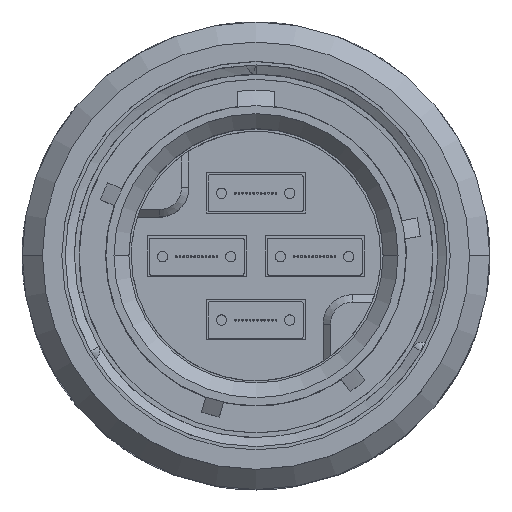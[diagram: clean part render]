
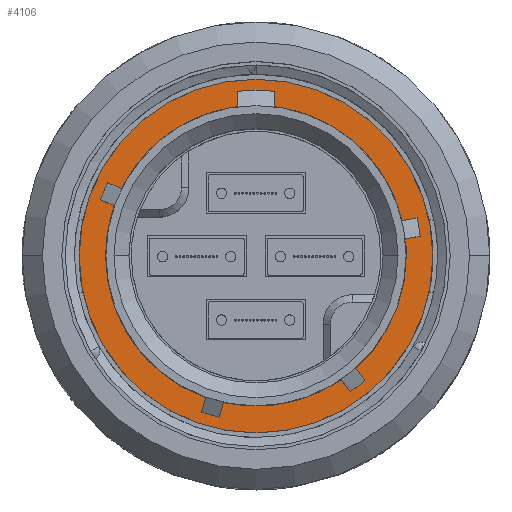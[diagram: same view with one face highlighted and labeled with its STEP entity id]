
A CAD part, top view. The second image highlights one B-rep face of the part: STEP entity #4106.
In plain terms, the highlighted planar face has unit normal (0, 0, 1).
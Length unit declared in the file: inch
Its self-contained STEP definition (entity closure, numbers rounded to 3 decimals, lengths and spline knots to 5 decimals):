
#114 = AXIS2_PLACEMENT_3D ( 'NONE', #2065, #16247, #16500 ) ;
#302 = DIRECTION ( 'NONE',  ( 0., 0., 1. ) ) ;
#1078 = EDGE_CURVE ( 'NONE', #24357, #7943, #14765, .T. ) ;
#2065 = CARTESIAN_POINT ( 'NONE',  ( 0., 0., -0.593 ) ) ;
#2350 = ORIENTED_EDGE ( 'NONE', *, *, #1078, .T. ) ;
#3109 = DIRECTION ( 'NONE',  ( 0., 0., -1. ) ) ;
#3715 = AXIS2_PLACEMENT_3D ( 'NONE', #9182, #3109, #7083 ) ;
#4106 = ADVANCED_FACE ( 'NONE', ( #19296, #5102 ), #4617, .F. ) ;
#4276 = DIRECTION ( 'NONE',  ( 1., 0., 0. ) ) ;
#4355 = DIRECTION ( 'NONE',  ( 1., 0., 0. ) ) ;
#4565 = VERTEX_POINT ( 'NONE', #19266 ) ;
#4617 = PLANE ( 'NONE',  #3715 ) ;
#5102 = FACE_OUTER_BOUND ( 'NONE', #24009, .T. ) ;
#5125 = EDGE_LOOP ( 'NONE', ( #14137, #22642 ) ) ;
#5825 = EDGE_CURVE ( 'NONE', #4565, #25129, #6826, .T. ) ;
#6263 = CARTESIAN_POINT ( 'NONE',  ( 0., 0., -0.593 ) ) ;
#6529 = CIRCLE ( 'NONE', #12399, 0.394 ) ;
#6826 = CIRCLE ( 'NONE', #114, 0.394 ) ;
#7018 = CARTESIAN_POINT ( 'NONE',  ( -0.394, 0., -0.593 ) ) ;
#7083 = DIRECTION ( 'NONE',  ( -1., 0., 0. ) ) ;
#7871 = DIRECTION ( 'NONE',  ( 1., 0., 0. ) ) ;
#7943 = VERTEX_POINT ( 'NONE', #21443 ) ;
#9182 = CARTESIAN_POINT ( 'NONE',  ( 0., 0.394, -0.593 ) ) ;
#9722 = EDGE_CURVE ( 'NONE', #25129, #4565, #6529, .T. ) ;
#10583 = AXIS2_PLACEMENT_3D ( 'NONE', #6263, #22318, #4276 ) ;
#12399 = AXIS2_PLACEMENT_3D ( 'NONE', #20157, #302, #4355 ) ;
#13632 = CIRCLE ( 'NONE', #23338, 0.46949 ) ;
#14137 = ORIENTED_EDGE ( 'NONE', *, *, #5825, .F. ) ;
#14765 = CIRCLE ( 'NONE', #10583, 0.46949 ) ;
#16247 = DIRECTION ( 'NONE',  ( 0., 0., 1. ) ) ;
#16500 = DIRECTION ( 'NONE',  ( 1., 0., 0. ) ) ;
#17847 = CARTESIAN_POINT ( 'NONE',  ( 0., 0., -0.593 ) ) ;
#19072 = EDGE_CURVE ( 'NONE', #7943, #24357, #13632, .T. ) ;
#19266 = CARTESIAN_POINT ( 'NONE',  ( 0.394, 0., -0.593 ) ) ;
#19296 = FACE_BOUND ( 'NONE', #5125, .T. ) ;
#20157 = CARTESIAN_POINT ( 'NONE',  ( 0., 0., -0.593 ) ) ;
#21443 = CARTESIAN_POINT ( 'NONE',  ( 0.46949, 0., -0.593 ) ) ;
#22318 = DIRECTION ( 'NONE',  ( 0., 0., 1. ) ) ;
#22642 = ORIENTED_EDGE ( 'NONE', *, *, #9722, .F. ) ;
#23257 = CARTESIAN_POINT ( 'NONE',  ( -0.46949, 0., -0.593 ) ) ;
#23338 = AXIS2_PLACEMENT_3D ( 'NONE', #17847, #25912, #7871 ) ;
#24009 = EDGE_LOOP ( 'NONE', ( #25673, #2350 ) ) ;
#24357 = VERTEX_POINT ( 'NONE', #23257 ) ;
#25129 = VERTEX_POINT ( 'NONE', #7018 ) ;
#25673 = ORIENTED_EDGE ( 'NONE', *, *, #19072, .T. ) ;
#25912 = DIRECTION ( 'NONE',  ( 0., 0., 1. ) ) ;
